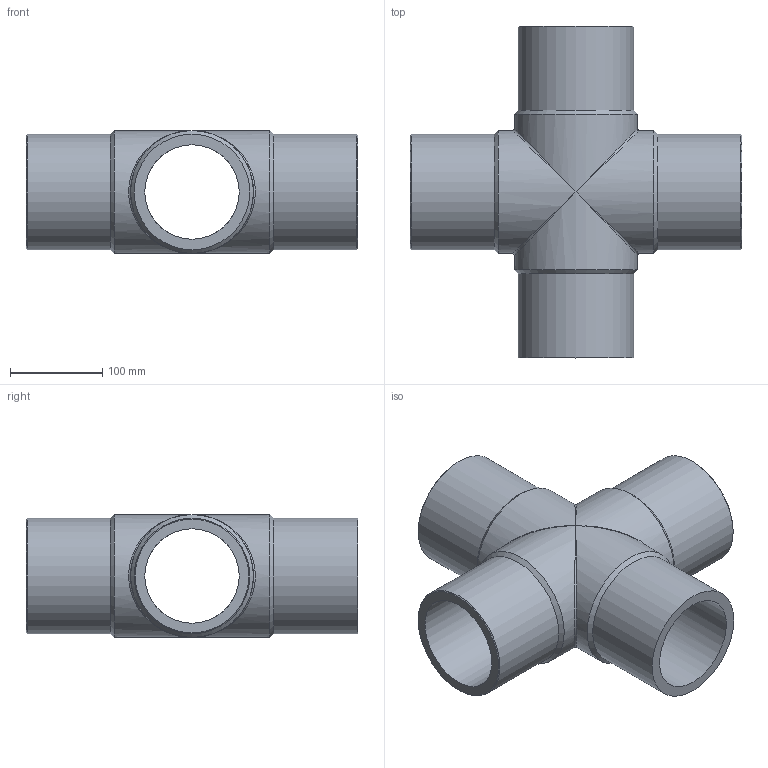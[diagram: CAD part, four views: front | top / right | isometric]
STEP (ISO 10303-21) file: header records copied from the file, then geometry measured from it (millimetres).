
FILE_DESCRIPTION(/* description */ ('Unknown'),/* implementation_level */ '2;1');
FILE_NAME(/* name */ 'CRP125C',/* time_stamp */ '2022-07-08T09:27:06+02:00',/* author */ ('Unknown'),/* organization */ ('Unknown'),/* preprocessor_version */ 'ST-DEVELOPER v18.102',/* originating_system */ 'Solid Edge',/* authorisation */ 'Unknown');
FILE_SCHEMA (('AUTOMOTIVE_DESIGN {1 0 10303 214 3 1 1}'));
Length unit declared in the file: millimetre
Products named in the file (1): CRP125C
Bounding box: 359 x 359 x 133 mm (x, y, z)
Volume: 2623233.1 mm3; surface area: 426385.8 mm2
Topology: 1 solids, 1 shells, 27 faces, 64 edges, 29 vertices
Faces by surface type: cylinder 12, cone 7, plane 4, bspline 4
Full cylindrical faces by diameter (mm): 102.2 x4, 125 x4, 133 x4
Entity records: 754 total; most frequent: CARTESIAN_POINT 258, DIRECTION 110, ORIENTED_EDGE 62, AXIS2_PLACEMENT_3D 55, EDGE_LOOP 50, FACE_BOUND 50, EDGE_CURVE 31, ADVANCED_FACE 27
